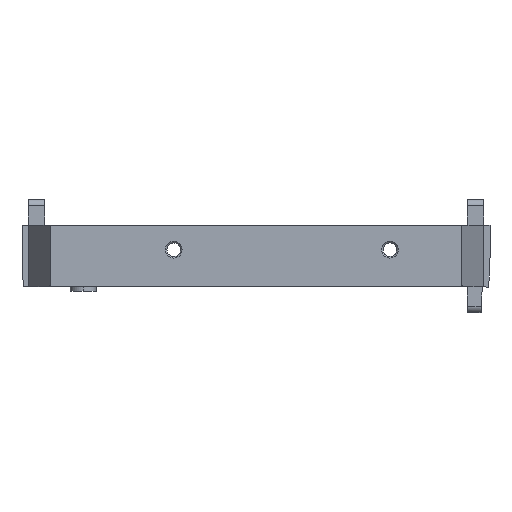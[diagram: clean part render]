
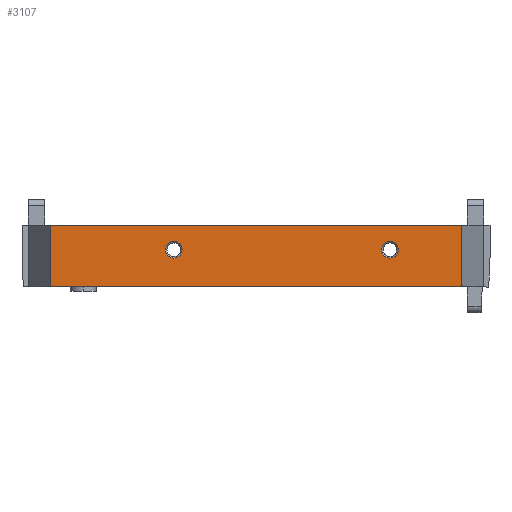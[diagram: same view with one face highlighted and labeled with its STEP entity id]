
A CAD part, left-side view. The second image highlights one B-rep face of the part: STEP entity #3107.
In plain terms, the highlighted planar face has unit normal (-1, 0, 0).
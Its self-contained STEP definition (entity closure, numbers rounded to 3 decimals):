
#340=DIRECTION('',(0.,-1.,0.));
#341=VECTOR('',#340,127.434);
#342=CARTESIAN_POINT('',(-96.5,63.717,269.727));
#343=LINE('',#342,#341);
#587=DIRECTION('',(0.,0.,1.));
#588=VECTOR('',#587,18.818);
#589=CARTESIAN_POINT('',(-96.5,63.73,270.013));
#590=LINE('',#589,#588);
#591=DIRECTION('',(0.,-1.,0.));
#592=VECTOR('',#591,127.459);
#593=CARTESIAN_POINT('',(-96.5,63.73,288.831));
#594=LINE('',#593,#592);
#595=DIRECTION('',(0.,0.045,-0.999));
#596=VECTOR('',#595,0.286);
#597=CARTESIAN_POINT('',(-96.5,-63.73,270.013));
#598=LINE('',#597,#596);
#599=DIRECTION('',(0.,0.045,0.999));
#600=VECTOR('',#599,0.286);
#601=CARTESIAN_POINT('',(-96.5,63.717,269.727));
#602=LINE('',#601,#600);
#603=CARTESIAN_POINT('',(-96.5,25.5,281.227));
#604=DIRECTION('',(-1.,0.,0.));
#605=DIRECTION('',(0.,0.,1.));
#606=AXIS2_PLACEMENT_3D('',#603,#604,#605);
#608=CARTESIAN_POINT('',(-96.5,25.5,281.227));
#609=DIRECTION('',(-1.,0.,0.));
#610=DIRECTION('',(0.,0.,-1.));
#611=AXIS2_PLACEMENT_3D('',#608,#609,#610);
#613=CARTESIAN_POINT('',(-96.5,-41.5,281.227));
#614=DIRECTION('',(-1.,0.,0.));
#615=DIRECTION('',(0.,0.,-1.));
#616=AXIS2_PLACEMENT_3D('',#613,#614,#615);
#618=CARTESIAN_POINT('',(-96.5,-41.5,281.227));
#619=DIRECTION('',(-1.,0.,0.));
#620=DIRECTION('',(0.,0.,1.));
#621=AXIS2_PLACEMENT_3D('',#618,#619,#620);
#627=DIRECTION('',(0.,0.,1.));
#628=VECTOR('',#627,18.818);
#629=CARTESIAN_POINT('',(-96.5,-63.73,270.013));
#630=LINE('',#629,#628);
#2081=CARTESIAN_POINT('',(-96.5,-63.73,288.831));
#2082=VERTEX_POINT('',#2081);
#2083=CARTESIAN_POINT('',(-96.5,63.73,288.831));
#2084=VERTEX_POINT('',#2083);
#2263=CARTESIAN_POINT('',(-96.5,63.717,269.727));
#2264=VERTEX_POINT('',#2263);
#2265=CARTESIAN_POINT('',(-96.5,-63.717,269.727));
#2266=VERTEX_POINT('',#2265);
#2371=CARTESIAN_POINT('',(-96.5,63.73,270.013));
#2372=VERTEX_POINT('',#2371);
#2373=CARTESIAN_POINT('',(-96.5,-63.73,270.013));
#2374=VERTEX_POINT('',#2373);
#2375=CARTESIAN_POINT('',(-96.5,25.5,283.827));
#2376=CARTESIAN_POINT('',(-96.5,25.5,278.627));
#2377=VERTEX_POINT('',#2375);
#2378=VERTEX_POINT('',#2376);
#2379=CARTESIAN_POINT('',(-96.5,-41.5,278.627));
#2380=CARTESIAN_POINT('',(-96.5,-41.5,283.827));
#2381=VERTEX_POINT('',#2379);
#2382=VERTEX_POINT('',#2380);
#3079=CARTESIAN_POINT('',(-96.5,1167.992,328.75));
#3080=DIRECTION('',(-1.,0.,0.));
#3081=DIRECTION('',(0.,0.,-1.));
#3082=AXIS2_PLACEMENT_3D('',#3079,#3080,#3081);
#3083=PLANE('',#3082);
#3084=ORIENTED_EDGE('',*,*,#3072,.T.);
#3085=ORIENTED_EDGE('',*,*,#2675,.T.);
#3087=ORIENTED_EDGE('',*,*,#3086,.F.);
#3089=ORIENTED_EDGE('',*,*,#3088,.T.);
#3090=ORIENTED_EDGE('',*,*,#2929,.F.);
#3092=ORIENTED_EDGE('',*,*,#3091,.T.);
#3093=EDGE_LOOP('',(#3084,#3085,#3087,#3089,#3090,#3092));
#3094=FACE_OUTER_BOUND('',#3093,.F.);
#3096=ORIENTED_EDGE('',*,*,#3095,.T.);
#3098=ORIENTED_EDGE('',*,*,#3097,.T.);
#3099=EDGE_LOOP('',(#3096,#3098));
#3100=FACE_BOUND('',#3099,.F.);
#3102=ORIENTED_EDGE('',*,*,#3101,.T.);
#3104=ORIENTED_EDGE('',*,*,#3103,.T.);
#3105=EDGE_LOOP('',(#3102,#3104));
#3106=FACE_BOUND('',#3105,.F.);
#3107=ADVANCED_FACE('',(#3094,#3100,#3106),#3083,.T.);
#607=CIRCLE('',#606,2.6);
#612=CIRCLE('',#611,2.6);
#617=CIRCLE('',#616,2.6);
#622=CIRCLE('',#621,2.6);
#2675=EDGE_CURVE('',#2084,#2082,#594,.T.);
#2929=EDGE_CURVE('',#2264,#2266,#343,.T.);
#3072=EDGE_CURVE('',#2372,#2084,#590,.T.);
#3086=EDGE_CURVE('',#2374,#2082,#630,.T.);
#3088=EDGE_CURVE('',#2374,#2266,#598,.T.);
#3091=EDGE_CURVE('',#2264,#2372,#602,.T.);
#3095=EDGE_CURVE('',#2377,#2378,#607,.T.);
#3097=EDGE_CURVE('',#2378,#2377,#612,.T.);
#3101=EDGE_CURVE('',#2381,#2382,#617,.T.);
#3103=EDGE_CURVE('',#2382,#2381,#622,.T.);
